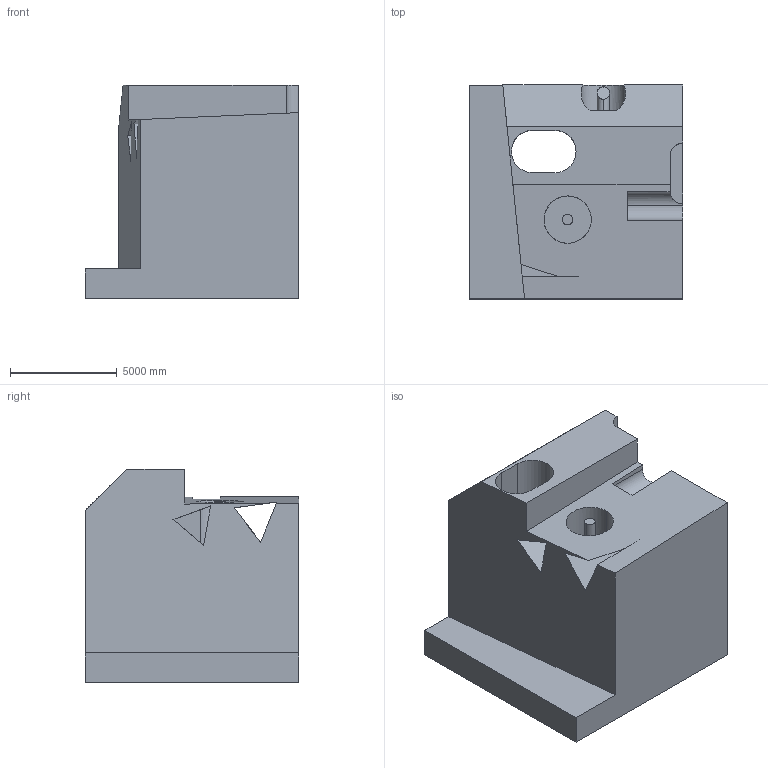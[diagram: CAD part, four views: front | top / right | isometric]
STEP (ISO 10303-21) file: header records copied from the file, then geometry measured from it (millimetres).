
FILE_DESCRIPTION (( 'STEP AP203' ), '1' );
FILE_NAME ('1960.STEP', '2022-08-23T09:59:39', ( 'user' ), ( '' ), 'SwSTEP 2.0', 'SolidWorks 2021', '' );
FILE_SCHEMA (( 'CONFIG_CONTROL_DESIGN' ));
Length unit declared in the file: centimetre
Products named in the file (1): 1960
Bounding box: 10000 x 10000 x 10000 mm (x, y, z)
Volume: 652149942373.4 mm3; surface area: 690577531.2 mm2
Topology: 1 solids, 1 shells, 43 faces, 120 edges, 80 vertices
Faces by surface type: plane 29, cylinder 14
Entity records: 1553 total; most frequent: CARTESIAN_POINT 373, ORIENTED_EDGE 240, DIRECTION 214, EDGE_CURVE 120, VECTOR 84, LINE 84, VERTEX_POINT 80, AXIS2_PLACEMENT_3D 65
